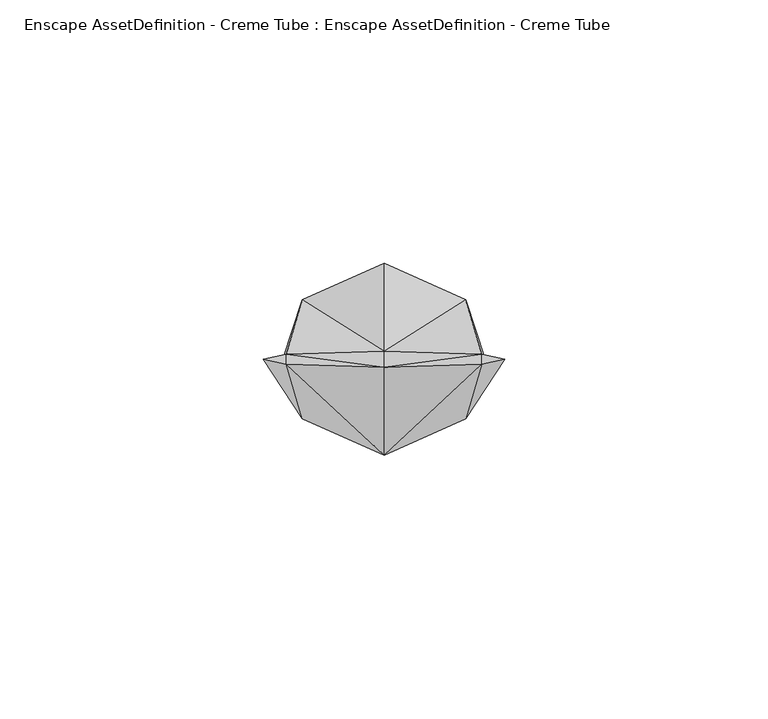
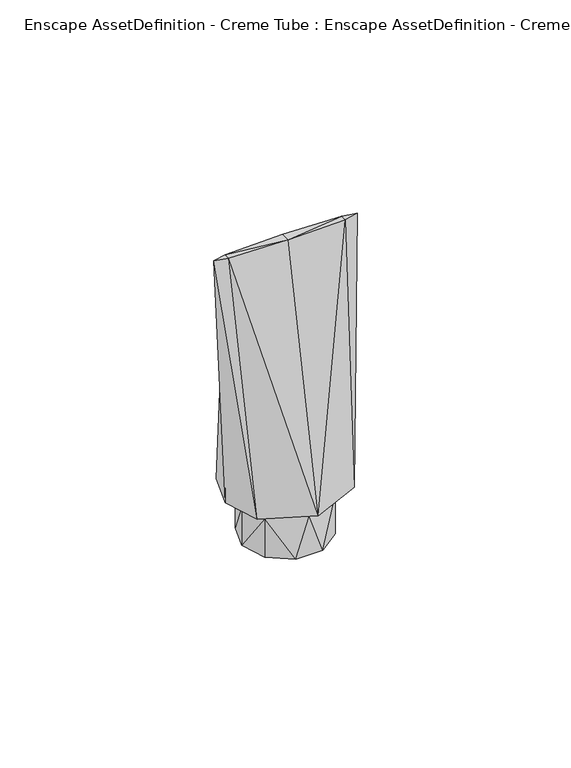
"""IFC4 building model written with IfcOpenShell, lengths in millimetres: geographic element geometry, Enscape AssetDefinition - Creme Tube : Enscape AssetDefinition - Creme Tube."""

from ifc_helpers import new_model, si_unit, origin, place, context, project, spatial, faceted_brep, source, transform, mapped, element, save


def enscape_assetdefinition_creme_tube_enscape_assetdefinition_85d8d02e(model_context):
    return source(origin(), model_context, "Body", "Brep", [
        faceted_brep([(15.5391851, 11.2896273, 16.201118), (13.9209526, 0.0, 12.9738515), (11.2624299, 8.1827501, 12.9738515), (19.2072038, 0.0, 16.201118), (11.2624299, -8.1827501, 12.9738515), (11.2624299, 8.1827501, 0.0), (13.9209526, 0.0, 0.0), (15.5391851, -11.2896273, 16.201118), (18.5828693, 0.9551008, 99.3540809), (22.9696129, 0.0, 99.3540809), (0.0, -18.2673018, 16.201118), (18.5828693, -0.9551008, 99.3540809), (0.0, 1.5458394, 99.3540809), (0.0, -1.5458394, 99.3540809), (-18.5828693, -0.9551008, 99.3540809), (-18.5828693, 0.9551008, 99.3540809), (0.0, 18.2673018, 16.201118), (-15.5391851, 11.2896273, 16.201118), (-19.2072038, 0.0, 16.201118), (-22.9696129, 0.0, 99.3540809), (-15.5391851, -11.2896273, 16.201118), (-13.9209526, 0.0, 12.9738515), (-11.2624299, -8.1827501, 12.9738515), (-11.2624299, 8.1827501, 12.9738515), (-11.2624299, 8.1827501, 0.0), (-13.9209526, 0.0, 0.0), (0.0, 13.2398233, 12.9738515), (-4.3019531, 13.2398233, 0.0), (-11.2624299, -8.1827501, 0.0), (-4.3019531, -13.2398233, 0.0), (4.3019531, 13.2398233, 0.0), (11.2624299, -8.1827501, 0.0), (4.3019531, -13.2398233, 0.0), (0.0, -13.2398233, 12.9738515)], [[[0, 1, 2]], [[1, 0, 3]], [[3, 4, 1]], [[5, 1, 6]], [[1, 5, 2]], [[4, 6, 1]], [[4, 3, 7]], [[8, 3, 0]], [[3, 8, 9]], [[9, 7, 3]], [[10, 4, 7]], [[11, 10, 7]], [[7, 9, 11]], [[8, 11, 9]], [[0, 12, 8]], [[13, 8, 12]], [[8, 13, 11]], [[10, 11, 13]], [[14, 10, 13]], [[15, 13, 12]], [[13, 15, 14]], [[12, 0, 16]], [[12, 17, 15]], [[17, 12, 16]], [[15, 18, 19]], [[18, 15, 17]], [[14, 15, 19]], [[10, 14, 20]], [[19, 20, 14]], [[20, 19, 18]], [[17, 21, 18]], [[18, 22, 20]], [[22, 18, 21]], [[21, 17, 23]], [[16, 23, 17]], [[24, 21, 23]], [[21, 24, 25]], [[25, 22, 21]], [[23, 16, 26]], [[27, 23, 26]], [[23, 27, 24]], [[27, 25, 24]], [[22, 25, 28]], [[25, 29, 28]], [[5, 25, 27]], [[5, 29, 25]], [[27, 26, 30]], [[5, 27, 30]], [[16, 2, 26]], [[2, 30, 26]], [[30, 2, 5]], [[5, 6, 31]], [[5, 31, 29]], [[6, 4, 31]], [[4, 32, 31]], [[29, 31, 32]], [[4, 10, 33]], [[32, 4, 33]], [[32, 33, 29]], [[10, 22, 33]], [[22, 29, 33]], [[22, 10, 20]], [[29, 22, 28]], [[2, 16, 0]]]),
    ])


if __name__ == "__main__":
    model = new_model("IFC4")
    model_context = context("Model", 3, world=origin())
    ifc_project = project(units=[si_unit("LENGTHUNIT", "METRE", prefix="MILLI")], contexts=[model_context])
    site = spatial("IfcSite", under=ifc_project)
    building = spatial("IfcBuilding", under=site)
    placement = place(None, origin())
    enscape_assetdefinition_creme_tube_enscape_assetdefinition_shape = enscape_assetdefinition_creme_tube_enscape_assetdefinition_85d8d02e(model_context)
    element("IfcGeographicElement", 1, ObjectType="Enscape AssetDefinition - Creme Tube : Enscape AssetDefinition - Creme Tube", at=placement, inside=building, context=model_context, shape_type="MappedRepresentation", body=[
        mapped(enscape_assetdefinition_creme_tube_enscape_assetdefinition_shape, transform((0.0, 0.0, 0.0), x_axis=(1.0, 0.0, 0.0), y_axis=(0.0, 1.0, 0.0), z_axis=(0.0, 0.0, 1.0))),
    ])
    save(model, "model.ifc")
